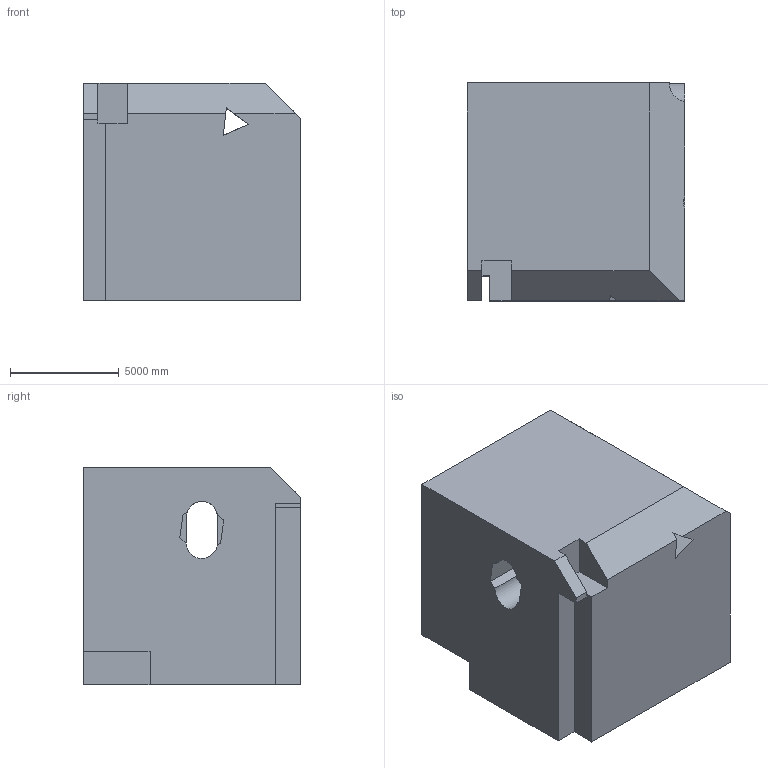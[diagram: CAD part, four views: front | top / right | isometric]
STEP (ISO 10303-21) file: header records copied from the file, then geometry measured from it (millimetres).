
FILE_DESCRIPTION (( 'STEP AP203' ), '1' );
FILE_NAME ('1973.STEP', '2022-08-23T10:08:22', ( 'user' ), ( '' ), 'SwSTEP 2.0', 'SolidWorks 2021', '' );
FILE_SCHEMA (( 'CONFIG_CONTROL_DESIGN' ));
Length unit declared in the file: centimetre
Products named in the file (1): 1973
Bounding box: 10000 x 10000 x 10000 mm (x, y, z)
Volume: 894374776727 mm3; surface area: 715496829.8 mm2
Topology: 1 solids, 1 shells, 47 faces, 145 edges, 96 vertices
Faces by surface type: plane 40, cylinder 7
Entity records: 1684 total; most frequent: CARTESIAN_POINT 322, ORIENTED_EDGE 290, DIRECTION 242, EDGE_CURVE 145, VECTOR 122, LINE 122, VERTEX_POINT 96, AXIS2_PLACEMENT_3D 60
